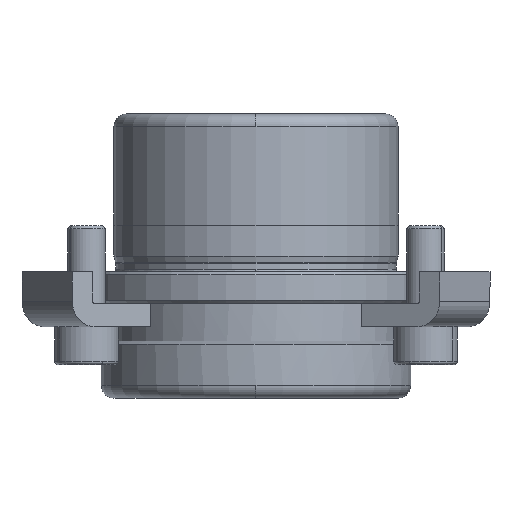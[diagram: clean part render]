
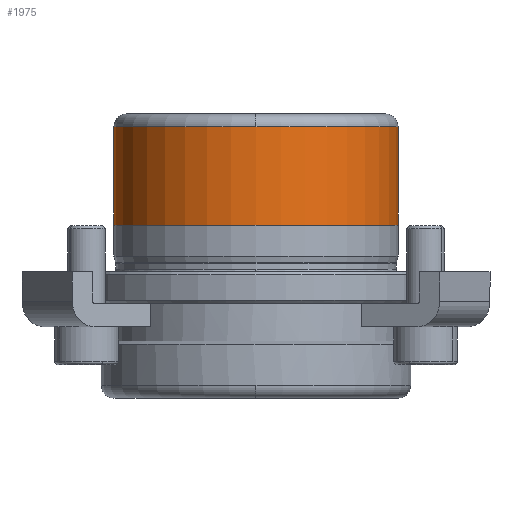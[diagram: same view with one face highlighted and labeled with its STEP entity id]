
A CAD part, front view. The second image highlights one B-rep face of the part: STEP entity #1975.
In plain terms, the highlighted cylindrical face has radius 22.492 mm (diameter 44.984 mm), a partial arc.
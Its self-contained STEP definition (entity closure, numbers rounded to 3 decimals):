
#1111=CARTESIAN_POINT('',(22.492,0.,7.4));
#1112=VERTEX_POINT('',#1111);
#1113=CARTESIAN_POINT('',(22.492,0.,23.));
#1114=VERTEX_POINT('',#1113);
#1115=CARTESIAN_POINT('',(22.492,0.,7.4));
#1116=DIRECTION('',(0.0,0.0,1.0));
#1117=VECTOR('',#1116,15.6);
#1118=LINE('',#1115,#1117);
#1119=EDGE_CURVE('',#1112,#1114,#1118,.T.);
#1121=CARTESIAN_POINT('',(-22.492,0.,7.4));
#1122=VERTEX_POINT('',#1121);
#1130=CARTESIAN_POINT('',(-22.492,0.,23.));
#1131=VERTEX_POINT('',#1130);
#1132=CARTESIAN_POINT('',(-22.492,0.,7.4));
#1133=DIRECTION('',(0.0,0.0,1.0));
#1134=VECTOR('',#1133,15.6);
#1135=LINE('',#1132,#1134);
#1136=EDGE_CURVE('',#1122,#1131,#1135,.T.);
#1172=CARTESIAN_POINT('',(0.,-22.492,23.0));
#1173=VERTEX_POINT('',#1172);
#1174=CARTESIAN_POINT('',(0.0,0.,23.));
#1175=DIRECTION('',(0.0,0.0,-1.0));
#1176=DIRECTION('',(1.0,0.0,0.0));
#1177=AXIS2_PLACEMENT_3D('',#1174,#1175,#1176);
#1178=CIRCLE('',#1177,22.492);
#1179=EDGE_CURVE('',#1173,#1131,#1178,.T.);
#1946=CARTESIAN_POINT('',(0.0,0.,23.));
#1947=DIRECTION('',(0.0,0.0,-1.0));
#1948=DIRECTION('',(1.0,0.0,0.0));
#1949=AXIS2_PLACEMENT_3D('',#1946,#1947,#1948);
#1950=CIRCLE('',#1949,22.492);
#1951=EDGE_CURVE('',#1114,#1173,#1950,.T.);
#1957=CARTESIAN_POINT('',(0.0,0.,15.2));
#1958=DIRECTION('',(0.0,0.,-1.0));
#1959=DIRECTION('',(1.0,0.0,0.0));
#1960=AXIS2_PLACEMENT_3D('',#1957,#1958,#1959);
#1961=CYLINDRICAL_SURFACE('',#1960,22.492);
#1962=ORIENTED_EDGE('',*,*,#1119,.T.);
#1963=ORIENTED_EDGE('',*,*,#1951,.T.);
#1964=ORIENTED_EDGE('',*,*,#1179,.T.);
#1965=ORIENTED_EDGE('',*,*,#1136,.F.);
#1966=CARTESIAN_POINT('',(0.0,0.,7.4));
#1967=DIRECTION('',(0.0,0.0,-1.0));
#1968=DIRECTION('',(1.0,0.0,0.0));
#1969=AXIS2_PLACEMENT_3D('',#1966,#1967,#1968);
#1970=CIRCLE('',#1969,22.492);
#1971=EDGE_CURVE('',#1112,#1122,#1970,.T.);
#1972=ORIENTED_EDGE('',*,*,#1971,.F.);
#1973=EDGE_LOOP('',(#1962,#1963,#1964,#1965,#1972));
#1974=FACE_OUTER_BOUND('',#1973,.T.);
#1975=ADVANCED_FACE('',(#1974),#1961,.T.);
